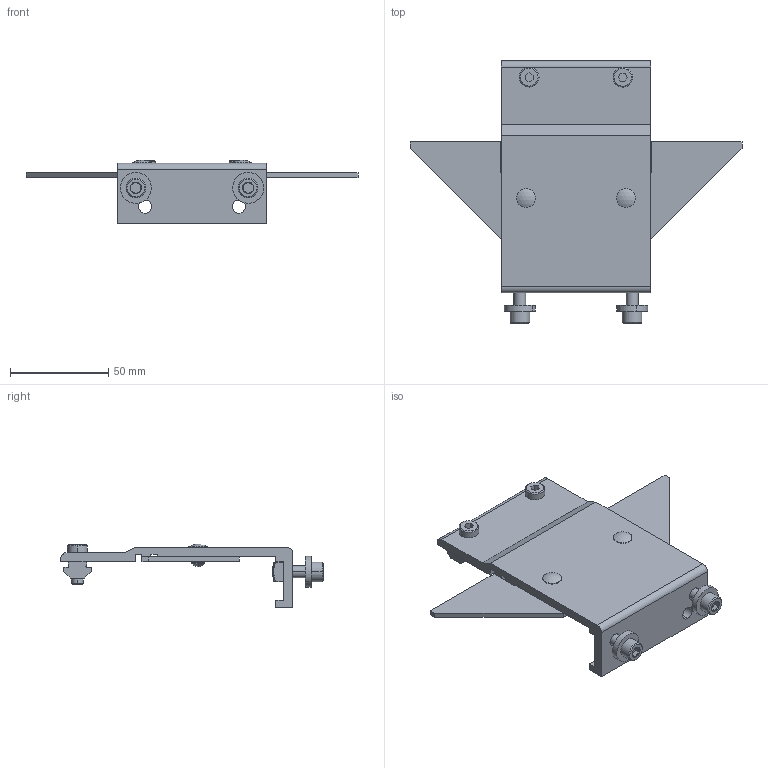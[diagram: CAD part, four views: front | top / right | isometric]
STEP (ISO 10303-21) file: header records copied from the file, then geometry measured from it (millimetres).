
FILE_DESCRIPTION((''),'2;1');
FILE_NAME('240838_ASM','2023-02-27T',('jenni.wallner'),(''),'PRO/ENGINEER BY PARAMETRIC TECHNOLOGY CORPORATION, 2012420','PRO/ENGINEER BY PARAMETRIC TECHNOLOGY CORPORATION, 2012420','');
FILE_SCHEMA(('CONFIG_CONTROL_DESIGN'));
Length unit declared in the file: inch
Products named in the file (11): 9206XXM_920620M; 807-920; 300150M_300150MSS; 9506XXM_950616M; 605279P; 240835; 2408XX_240831; 914-006; 240836_240836_ASM; ASM0001_ASM; 240838_ASM
Assembly tree (15 placements, depth 4):
  240838_ASM
    ASM0001_ASM
      9206XXM_920620M  x2
      807-920  x2
      300150M_300150MSS
      9506XXM_950616M  x2
      605279P  x2
      240836_240836_ASM
        240835
        2408XX_240831
        914-006  x2
Bounding box: 168.91 x 133.46 x 32.31 mm (x, y, z)
Volume: 78515 mm3; surface area: 45567.8 mm2
Topology: 13 solids, 13 shells, 232 faces, 542 edges, 344 vertices
Faces by surface type: plane 110, cylinder 78, cone 38, bspline 4, sphere 2
Entity records: 5308 total; most frequent: CARTESIAN_POINT 1037, DIRECTION 913, ORIENTED_EDGE 786, EDGE_CURVE 393, AXIS2_PLACEMENT_3D 338, VERTEX_POINT 255, VECTOR 237, LINE 237
